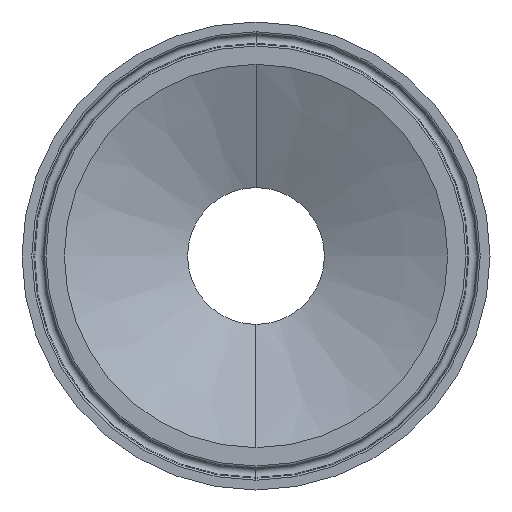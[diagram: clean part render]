
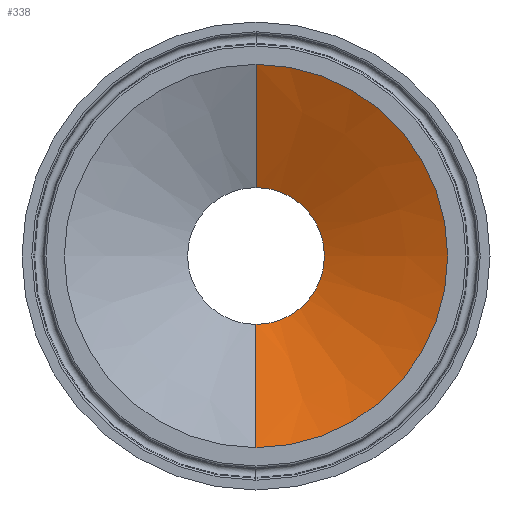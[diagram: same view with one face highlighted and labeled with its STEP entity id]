
A CAD part, left-side view. The second image highlights one B-rep face of the part: STEP entity #338.
In plain terms, the highlighted conical face has half-angle 65.479 degrees and reference radius 48.692 mm.
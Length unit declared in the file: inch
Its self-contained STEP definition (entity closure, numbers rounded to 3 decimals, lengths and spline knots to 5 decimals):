
#20 = DIRECTION ( 'NONE',  ( -1., 0., 0. ) ) ;
#61 = CIRCLE ( 'NONE', #293, 1.917 ) ;
#123 = DIRECTION ( 'NONE',  ( 0., 0., 1. ) ) ;
#217 = ORIENTED_EDGE ( 'NONE', *, *, #520, .F. ) ;
#233 = FACE_OUTER_BOUND ( 'NONE', #1020, .T. ) ;
#255 = CARTESIAN_POINT ( 'NONE',  ( 0., 0., -1.917 ) ) ;
#279 = VERTEX_POINT ( 'NONE', #825 ) ;
#293 = AXIS2_PLACEMENT_3D ( 'NONE', #705, #1019, #497 ) ;
#320 = CARTESIAN_POINT ( 'NONE',  ( 0.562, 0., 0. ) ) ;
#338 = ADVANCED_FACE ( 'NONE', ( #233 ), #623, .F. ) ;
#359 = VECTOR ( 'NONE', #584, 39.37008 ) ;
#434 = CIRCLE ( 'NONE', #613, 0.685 ) ;
#439 = DIRECTION ( 'NONE',  ( -0.415, 0., -0.91 ) ) ;
#497 = DIRECTION ( 'NONE',  ( 0., 0., 1. ) ) ;
#520 = EDGE_CURVE ( 'NONE', #976, #279, #434, .T. ) ;
#537 = DIRECTION ( 'NONE',  ( -1., 0., 0. ) ) ;
#546 = CARTESIAN_POINT ( 'NONE',  ( 0., 0., 0. ) ) ;
#584 = DIRECTION ( 'NONE',  ( -0.415, 0., 0.91 ) ) ;
#613 = AXIS2_PLACEMENT_3D ( 'NONE', #320, #537, #123 ) ;
#623 = CONICAL_SURFACE ( 'NONE', #975, 1.917, 1.143 ) ;
#643 = LINE ( 'NONE', #255, #1264 ) ;
#705 = CARTESIAN_POINT ( 'NONE',  ( 0., 0., 0. ) ) ;
#716 = ORIENTED_EDGE ( 'NONE', *, *, #782, .T. ) ;
#767 = CARTESIAN_POINT ( 'NONE',  ( 0.562, 0., -0.685 ) ) ;
#779 = ORIENTED_EDGE ( 'NONE', *, *, #1245, .F. ) ;
#782 = EDGE_CURVE ( 'NONE', #1184, #1242, #61, .T. ) ;
#825 = CARTESIAN_POINT ( 'NONE',  ( 0.562, 0., 0.685 ) ) ;
#882 = ORIENTED_EDGE ( 'NONE', *, *, #1072, .T. ) ;
#893 = CARTESIAN_POINT ( 'NONE',  ( 0., 0., -1.917 ) ) ;
#975 = AXIS2_PLACEMENT_3D ( 'NONE', #546, #20, #1272 ) ;
#976 = VERTEX_POINT ( 'NONE', #767 ) ;
#1019 = DIRECTION ( 'NONE',  ( -1., 0., 0. ) ) ;
#1020 = EDGE_LOOP ( 'NONE', ( #217, #882, #716, #779 ) ) ;
#1072 = EDGE_CURVE ( 'NONE', #976, #1184, #643, .T. ) ;
#1098 = CARTESIAN_POINT ( 'NONE',  ( 0., 0., 1.917 ) ) ;
#1112 = LINE ( 'NONE', #1098, #359 ) ;
#1184 = VERTEX_POINT ( 'NONE', #893 ) ;
#1207 = CARTESIAN_POINT ( 'NONE',  ( 0., 0., 1.917 ) ) ;
#1242 = VERTEX_POINT ( 'NONE', #1207 ) ;
#1245 = EDGE_CURVE ( 'NONE', #279, #1242, #1112, .T. ) ;
#1264 = VECTOR ( 'NONE', #439, 39.37008 ) ;
#1272 = DIRECTION ( 'NONE',  ( 0., 0., 1. ) ) ;
